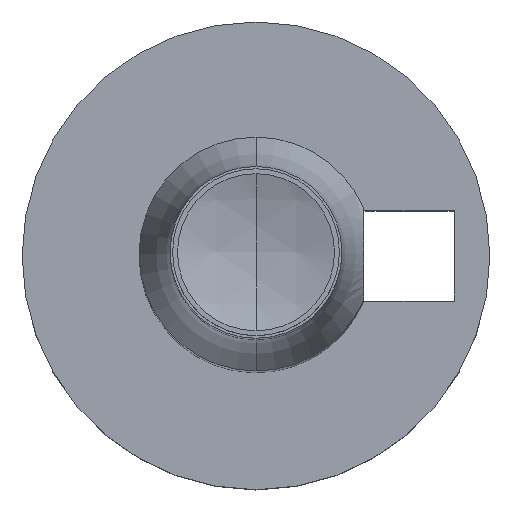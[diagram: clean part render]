
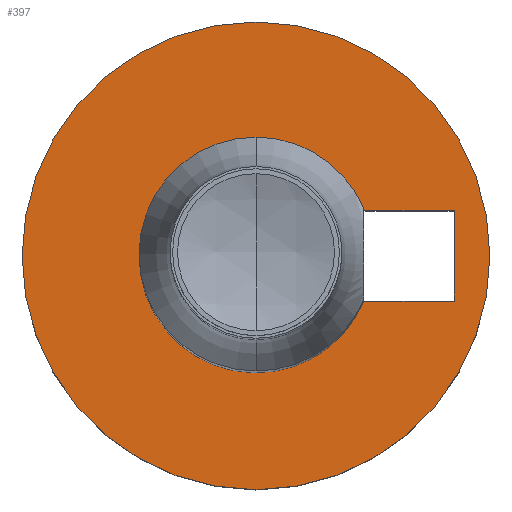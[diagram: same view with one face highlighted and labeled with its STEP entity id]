
A CAD part, top view. The second image highlights one B-rep face of the part: STEP entity #397.
In plain terms, the highlighted planar face has unit normal (0, 0, 1).
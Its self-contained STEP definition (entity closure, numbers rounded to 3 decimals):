
#7 = FACE_BOUND ( 'NONE', #155, .T. ) ;
#12 = EDGE_CURVE ( 'NONE', #399, #251, #606, .T. ) ;
#20 = ORIENTED_EDGE ( 'NONE', *, *, #650, .T. ) ;
#31 = AXIS2_PLACEMENT_3D ( 'NONE', #467, #727, #724 ) ;
#79 = EDGE_CURVE ( 'NONE', #421, #619, #124, .T. ) ;
#80 = VERTEX_POINT ( 'NONE', #516 ) ;
#86 = VERTEX_POINT ( 'NONE', #768 ) ;
#90 = CARTESIAN_POINT ( 'NONE',  ( 4.395, 1.84, -84.667 ) ) ;
#111 = DIRECTION ( 'NONE',  ( 0., 0., 1. ) ) ;
#121 = DIRECTION ( 'NONE',  ( -1., 0., 0. ) ) ;
#124 = LINE ( 'NONE', #255, #594 ) ;
#141 = ORIENTED_EDGE ( 'NONE', *, *, #548, .T. ) ;
#155 = EDGE_LOOP ( 'NONE', ( #206, #221, #712, #20 ) ) ;
#160 = DIRECTION ( 'NONE',  ( 1., 0., 0. ) ) ;
#175 = EDGE_LOOP ( 'NONE', ( #141, #732 ) ) ;
#177 = CARTESIAN_POINT ( 'NONE',  ( 0., 0., -84.667 ) ) ;
#206 = ORIENTED_EDGE ( 'NONE', *, *, #12, .F. ) ;
#221 = ORIENTED_EDGE ( 'NONE', *, *, #604, .T. ) ;
#243 = AXIS2_PLACEMENT_3D ( 'NONE', #177, #298, #160 ) ;
#251 = VERTEX_POINT ( 'NONE', #394 ) ;
#255 = CARTESIAN_POINT ( 'NONE',  ( 8.075, 0., -84.667 ) ) ;
#282 = CIRCLE ( 'NONE', #390, 9.53 ) ;
#298 = DIRECTION ( 'NONE',  ( 0., 0., 1. ) ) ;
#301 = DIRECTION ( 'NONE',  ( 0., 0., 1. ) ) ;
#366 = CARTESIAN_POINT ( 'NONE',  ( 0., 0., -84.667 ) ) ;
#368 = LINE ( 'NONE', #568, #837 ) ;
#390 = AXIS2_PLACEMENT_3D ( 'NONE', #366, #301, #567 ) ;
#394 = CARTESIAN_POINT ( 'NONE',  ( 4.395, -1.84, -84.667 ) ) ;
#397 = ADVANCED_FACE ( 'NONE', ( #7, #471 ), #669, .F. ) ;
#399 = VERTEX_POINT ( 'NONE', #90 ) ;
#405 = CARTESIAN_POINT ( 'NONE',  ( 8.075, 1.84, -84.667 ) ) ;
#421 = VERTEX_POINT ( 'NONE', #405 ) ;
#447 = LINE ( 'NONE', #636, #560 ) ;
#464 = DIRECTION ( 'NONE',  ( 0., -1., 0. ) ) ;
#467 = CARTESIAN_POINT ( 'NONE',  ( 0., 0., -84.667 ) ) ;
#471 = FACE_OUTER_BOUND ( 'NONE', #175, .T. ) ;
#476 = AXIS2_PLACEMENT_3D ( 'NONE', #622, #111, #500 ) ;
#500 = DIRECTION ( 'NONE',  ( -1., 0., 0. ) ) ;
#516 = CARTESIAN_POINT ( 'NONE',  ( -9.53, 0., -84.667 ) ) ;
#548 = EDGE_CURVE ( 'NONE', #86, #80, #807, .T. ) ;
#560 = VECTOR ( 'NONE', #121, 1000. ) ;
#567 = DIRECTION ( 'NONE',  ( 1., 0., 0. ) ) ;
#568 = CARTESIAN_POINT ( 'NONE',  ( 0., 1.84, -84.667 ) ) ;
#594 = VECTOR ( 'NONE', #464, 1000. ) ;
#604 = EDGE_CURVE ( 'NONE', #399, #421, #368, .T. ) ;
#606 = CIRCLE ( 'NONE', #476, 4.765 ) ;
#619 = VERTEX_POINT ( 'NONE', #811 ) ;
#622 = CARTESIAN_POINT ( 'NONE',  ( 0., 0., -84.667 ) ) ;
#636 = CARTESIAN_POINT ( 'NONE',  ( 0., -1.84, -84.667 ) ) ;
#650 = EDGE_CURVE ( 'NONE', #619, #251, #447, .T. ) ;
#669 = PLANE ( 'NONE',  #31 ) ;
#712 = ORIENTED_EDGE ( 'NONE', *, *, #79, .T. ) ;
#724 = DIRECTION ( 'NONE',  ( -1., 0., 0. ) ) ;
#727 = DIRECTION ( 'NONE',  ( 0., 0., -1. ) ) ;
#732 = ORIENTED_EDGE ( 'NONE', *, *, #805, .T. ) ;
#738 = DIRECTION ( 'NONE',  ( 1., 0., 0. ) ) ;
#768 = CARTESIAN_POINT ( 'NONE',  ( 9.53, 0., -84.667 ) ) ;
#805 = EDGE_CURVE ( 'NONE', #80, #86, #282, .T. ) ;
#807 = CIRCLE ( 'NONE', #243, 9.53 ) ;
#811 = CARTESIAN_POINT ( 'NONE',  ( 8.075, -1.84, -84.667 ) ) ;
#837 = VECTOR ( 'NONE', #738, 1000. ) ;
